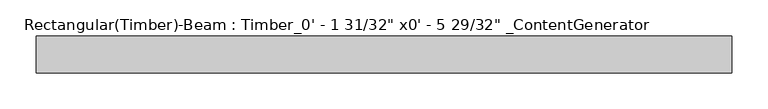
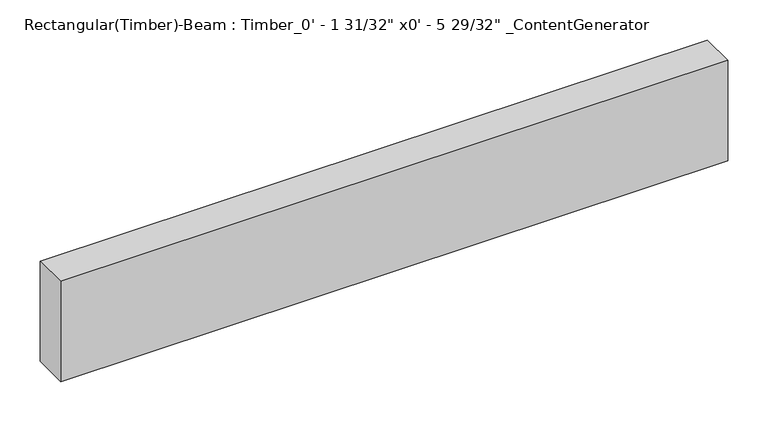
"""IFC4 building model written with IfcOpenShell, lengths in millimetres: beam geometry."""

from ifc_helpers import new_model, si_unit, frame, origin, place, context, project, spatial, polyline, outline, extrude, source, transform, mapped, element, save


def beam_0603a184(model_context):
    return source(origin(), model_context, "Body", "SweptSolid", [
        extrude(outline(polyline([(480.0525, 25.4), (480.0525, -25.4), (-480.0525, -25.4), (-480.0525, 25.4), (480.0525, 25.4)])), frame((0.0, 0.0, -76.2), z_axis=(0.0, 0.0, 1.0), x_axis=(1.0, 0.0, 0.0)), (0.0, 0.0, 1.0), 152.4),
    ])


if __name__ == "__main__":
    model = new_model("IFC4")
    model_context = context("Model", 3, world=origin())
    ifc_project = project(units=[si_unit("LENGTHUNIT", "METRE", prefix="MILLI")], contexts=[model_context])
    site = spatial("IfcSite", under=ifc_project)
    building = spatial("IfcBuilding", under=site)
    placement = place(None, origin())
    beam_shape = beam_0603a184(model_context)
    element("IfcBeam", 1, ObjectType="Rectangular(Timber)-Beam : Timber_0' - 1 31/32\" x0' - 5 29/32\" _ContentGenerator", at=placement, inside=building, context=model_context, shape_type="MappedRepresentation", body=[
        mapped(beam_shape, transform((0.0, 0.0, 0.0), x_axis=(1.0, 0.0, 0.0), y_axis=(0.0, 1.0, 0.0), z_axis=(0.0, 0.0, 1.0))),
    ])
    save(model, "model.ifc")
